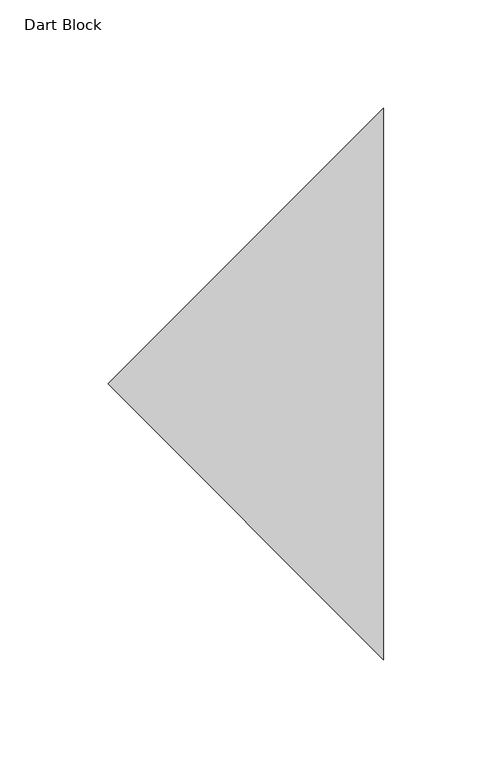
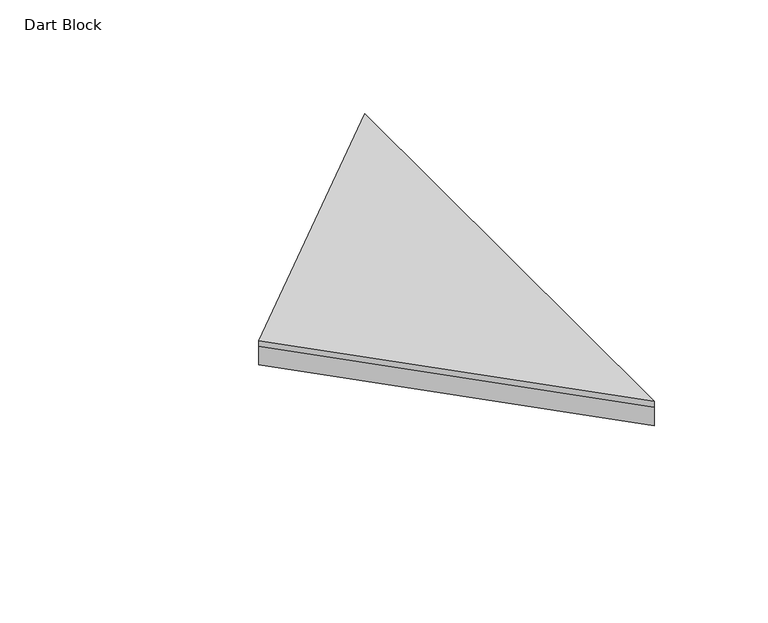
"""IFC4 building model written with IfcOpenShell, lengths in millimetres: proxy geometry, FilzFelt_Dart_Block : Dart Block."""

from ifc_helpers import new_model, si_unit, frame, origin, origin_with_axes, place, context, project, spatial, polyline, outline, extrude, source, transform, mapped, element, save


def dart_block_6d664180(model_context):
    return source(origin(), model_context, "Body", "SweptSolid", [
        extrude(outline(polyline([(127.0, 63.5), (127.0, -190.5), (0.0, -63.5), (127.0, 63.5)])), frame((0.0, 0.0, 10.0210937), z_axis=(0.0, 0.0, 1.0), x_axis=(1.0, 0.0, 0.0)), (0.0, 0.0, 1.0), 2.9765625),
        extrude(outline(polyline([(127.0, -190.5), (0.0, -63.5), (127.0, 63.5), (127.0, -190.5)])), origin_with_axes(), (0.0, 0.0, 1.0), 10.0210938),
    ])


if __name__ == "__main__":
    model = new_model("IFC4")
    model_context = context("Model", 3, world=origin())
    ifc_project = project(units=[si_unit("LENGTHUNIT", "METRE", prefix="MILLI")], contexts=[model_context])
    site = spatial("IfcSite", under=ifc_project)
    building = spatial("IfcBuilding", under=site)
    placement = place(None, origin())
    dart_block_shape = dart_block_6d664180(model_context)
    element("IfcBuildingElementProxy", 1, Name="FilzFelt_Dart_Block : Dart Block", ObjectType="FilzFelt_Dart_Block : Dart Block", at=placement, inside=building, context=model_context, shape_type="MappedRepresentation", body=[
        mapped(dart_block_shape, transform((0.0, 0.0, 0.0), x_axis=(1.0, 0.0, 0.0), y_axis=(0.0, 1.0, 0.0), z_axis=(0.0, 0.0, 1.0))),
    ])
    save(model, "model.ifc")
